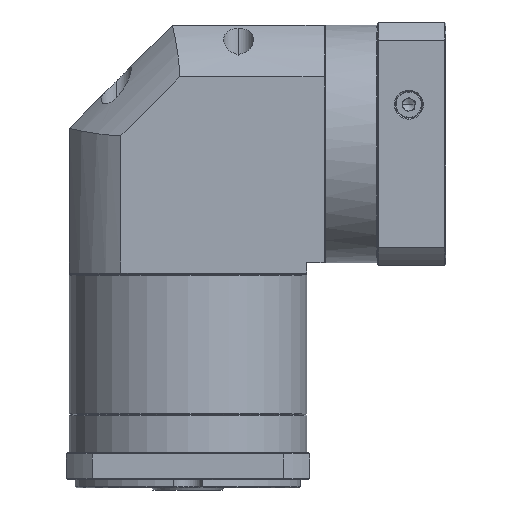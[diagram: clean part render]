
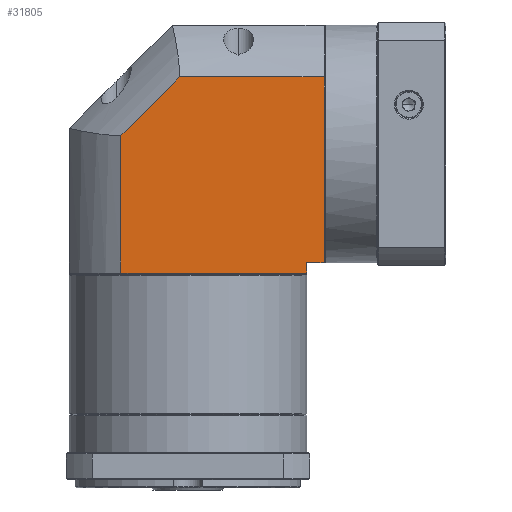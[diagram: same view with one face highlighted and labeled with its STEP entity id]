
A CAD part, front view. The second image highlights one B-rep face of the part: STEP entity #31805.
In plain terms, the highlighted planar face has unit normal (0, -1, 0).
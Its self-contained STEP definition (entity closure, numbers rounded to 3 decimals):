
#638 = EDGE_CURVE ( 'NONE', #80273, #24699, #125335, .T. ) ;
#1101 = VECTOR ( 'NONE', #122144, 1000. ) ;
#6385 = AXIS2_PLACEMENT_3D ( 'NONE', #72186, #30464, #71332 ) ;
#6979 = LINE ( 'NONE', #38529, #28832 ) ;
#9309 = DIRECTION ( 'NONE',  ( 0., 0., 1. ) ) ;
#12445 = CARTESIAN_POINT ( 'NONE',  ( -49.499, -32.411, 126.14 ) ) ;
#15038 = CARTESIAN_POINT ( 'NONE',  ( -49.499, -32.411, 137.64 ) ) ;
#16541 = VERTEX_POINT ( 'NONE', #78211 ) ;
#17706 = ORIENTED_EDGE ( 'NONE', *, *, #56394, .F. ) ;
#18027 = CARTESIAN_POINT ( 'NONE',  ( -139.399, -32.411, 126.14 ) ) ;
#18861 = VERTEX_POINT ( 'NONE', #91348 ) ;
#22812 = CARTESIAN_POINT ( 'NONE',  ( -41.099, -32.411, 137.64 ) ) ;
#24561 = LINE ( 'NONE', #95089, #92892 ) ;
#24699 = VERTEX_POINT ( 'NONE', #22812 ) ;
#28832 = VECTOR ( 'NONE', #88397, 1000. ) ;
#29815 = LINE ( 'NONE', #12445, #123008 ) ;
#30464 = DIRECTION ( 'NONE',  ( 0., 1., 0. ) ) ;
#31805 = ADVANCED_FACE ( 'NONE', ( #112750 ), #70500, .F. ) ;
#35171 = ORIENTED_EDGE ( 'NONE', *, *, #81251, .F. ) ;
#38529 = CARTESIAN_POINT ( 'NONE',  ( -164.499, -32.411, 227.54 ) ) ;
#40058 = ORIENTED_EDGE ( 'NONE', *, *, #41894, .F. ) ;
#41853 = CARTESIAN_POINT ( 'NONE',  ( -41.099, -32.411, 126.14 ) ) ;
#41894 = EDGE_CURVE ( 'NONE', #24699, #73629, #54379, .T. ) ;
#43302 = ORIENTED_EDGE ( 'NONE', *, *, #92024, .F. ) ;
#45961 = EDGE_LOOP ( 'NONE', ( #35171, #40058, #83791, #17706, #43302, #48553, #96446 ) ) ;
#46116 = LINE ( 'NONE', #18027, #122163 ) ;
#46475 = EDGE_CURVE ( 'NONE', #18861, #78365, #46116, .T. ) ;
#48553 = ORIENTED_EDGE ( 'NONE', *, *, #46475, .F. ) ;
#54379 = LINE ( 'NONE', #120146, #60573 ) ;
#54491 = CARTESIAN_POINT ( 'NONE',  ( -139.399, -32.411, 199.202 ) ) ;
#55103 = CARTESIAN_POINT ( 'NONE',  ( -111.061, -32.411, 227.54 ) ) ;
#56394 = EDGE_CURVE ( 'NONE', #121142, #80273, #6979, .T. ) ;
#60573 = VECTOR ( 'NONE', #121425, 1000. ) ;
#70500 = PLANE ( 'NONE',  #6385 ) ;
#71332 = DIRECTION ( 'NONE',  ( 1., 0., 0. ) ) ;
#72186 = CARTESIAN_POINT ( 'NONE',  ( -164.499, -32.411, 126.14 ) ) ;
#72904 = EDGE_CURVE ( 'NONE', #16541, #18861, #24561, .T. ) ;
#73629 = VERTEX_POINT ( 'NONE', #15038 ) ;
#78211 = CARTESIAN_POINT ( 'NONE',  ( -49.499, -32.411, 132.64 ) ) ;
#78365 = VERTEX_POINT ( 'NONE', #118942 ) ;
#80273 = VERTEX_POINT ( 'NONE', #95160 ) ;
#81251 = EDGE_CURVE ( 'NONE', #73629, #16541, #29815, .T. ) ;
#83791 = ORIENTED_EDGE ( 'NONE', *, *, #638, .F. ) ;
#86348 = VECTOR ( 'NONE', #104292, 1000. ) ;
#88397 = DIRECTION ( 'NONE',  ( 1., 0., 0. ) ) ;
#91348 = CARTESIAN_POINT ( 'NONE',  ( -139.399, -32.411, 132.64 ) ) ;
#92024 = EDGE_CURVE ( 'NONE', #78365, #121142, #112773, .T. ) ;
#92306 = DIRECTION ( 'NONE',  ( 0., 0., -1. ) ) ;
#92892 = VECTOR ( 'NONE', #104248, 1000. ) ;
#95089 = CARTESIAN_POINT ( 'NONE',  ( -164.499, -32.411, 132.64 ) ) ;
#95160 = CARTESIAN_POINT ( 'NONE',  ( -41.099, -32.411, 227.54 ) ) ;
#96446 = ORIENTED_EDGE ( 'NONE', *, *, #72904, .F. ) ;
#104248 = DIRECTION ( 'NONE',  ( -1., 0., 0. ) ) ;
#104292 = DIRECTION ( 'NONE',  ( 0.707, 0., 0.707 ) ) ;
#112750 = FACE_OUTER_BOUND ( 'NONE', #45961, .T. ) ;
#112773 = LINE ( 'NONE', #54491, #86348 ) ;
#118942 = CARTESIAN_POINT ( 'NONE',  ( -139.399, -32.411, 199.202 ) ) ;
#120146 = CARTESIAN_POINT ( 'NONE',  ( -164.499, -32.411, 137.64 ) ) ;
#121142 = VERTEX_POINT ( 'NONE', #55103 ) ;
#121425 = DIRECTION ( 'NONE',  ( -1., 0., 0. ) ) ;
#122144 = DIRECTION ( 'NONE',  ( 0., 0., -1. ) ) ;
#122163 = VECTOR ( 'NONE', #9309, 1000. ) ;
#123008 = VECTOR ( 'NONE', #92306, 1000. ) ;
#125335 = LINE ( 'NONE', #41853, #1101 ) ;
